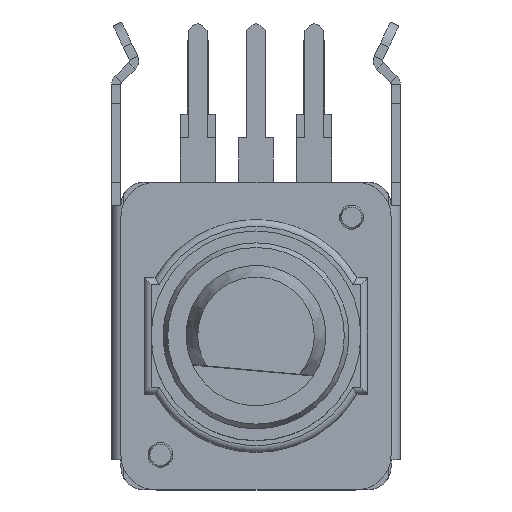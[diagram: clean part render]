
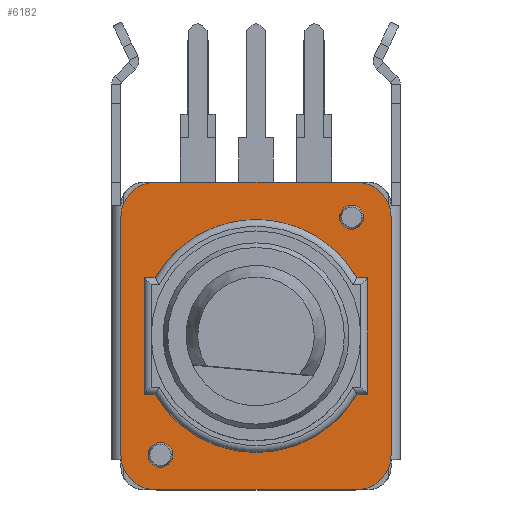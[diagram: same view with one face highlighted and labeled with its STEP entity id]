
A CAD part, top view. The second image highlights one B-rep face of the part: STEP entity #6182.
In plain terms, the highlighted planar face has unit normal (0, 0, 1).
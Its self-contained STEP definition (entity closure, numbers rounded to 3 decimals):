
#718=LINE($,#10011,#1444);
#722=LINE($,#10023,#1448);
#727=LINE($,#10041,#1453);
#728=LINE($,#10043,#1454);
#1444=VECTOR($,#8207,8.6);
#1448=VECTOR($,#8219,10.2);
#1453=VECTOR($,#8238,8.6);
#1454=VECTOR($,#8241,10.2);
#1727=PLANE($,#6667);
#2035=FACE_OUTER_BOUND($,#2353,.T.);
#2353=EDGE_LOOP($,(#5451,#5452,#5453,#5454,#5455,#5456,#5457,#5458));
#2500=CIRCLE($,#6652,1.5);
#2502=CIRCLE($,#6656,1.5);
#2504=CIRCLE($,#6660,1.5);
#2506=CIRCLE($,#6663,1.5);
#3051=VERTEX_POINT($,#9998);
#3052=VERTEX_POINT($,#9999);
#3056=VERTEX_POINT($,#10008);
#3057=VERTEX_POINT($,#10013);
#3060=VERTEX_POINT($,#10020);
#3061=VERTEX_POINT($,#10025);
#3063=VERTEX_POINT($,#10031);
#3064=VERTEX_POINT($,#10032);
#3905=EDGE_CURVE($,#3051,#3052,#2500,.T.);
#3911=EDGE_CURVE($,#3052,#3056,#718,.T.);
#3912=EDGE_CURVE($,#3056,#3057,#2502,.T.);
#3917=EDGE_CURVE($,#3057,#3060,#722,.T.);
#3918=EDGE_CURVE($,#3060,#3061,#2504,.T.);
#3921=EDGE_CURVE($,#3063,#3064,#2506,.T.);
#3926=EDGE_CURVE($,#3061,#3063,#727,.T.);
#3927=EDGE_CURVE($,#3064,#3051,#728,.T.);
#5451=ORIENTED_EDGE($,*,*,#3921,.F.);
#5452=ORIENTED_EDGE($,*,*,#3926,.F.);
#5453=ORIENTED_EDGE($,*,*,#3918,.F.);
#5454=ORIENTED_EDGE($,*,*,#3917,.F.);
#5455=ORIENTED_EDGE($,*,*,#3912,.F.);
#5456=ORIENTED_EDGE($,*,*,#3911,.F.);
#5457=ORIENTED_EDGE($,*,*,#3905,.F.);
#5458=ORIENTED_EDGE($,*,*,#3927,.F.);
#6182=ADVANCED_FACE($,(#2035),#1727,.T.);
#6652=AXIS2_PLACEMENT_3D($,#10000,#8197,#8198);
#6656=AXIS2_PLACEMENT_3D($,#10014,#8210,#8211);
#6660=AXIS2_PLACEMENT_3D($,#10026,#8222,#8223);
#6663=AXIS2_PLACEMENT_3D($,#10033,#8229,#8230);
#6667=AXIS2_PLACEMENT_3D($,#10045,#8243,#8244);
#8197=DIRECTION('center_axis',(0.,0.,
-1.));
#8198=DIRECTION('ref_axis',(-0.707,0.707,0.));
#8207=DIRECTION($,(1.,0.,0.));
#8210=DIRECTION('center_axis',(0.,0.,
-1.));
#8211=DIRECTION('ref_axis',(0.707,0.707,0.));
#8219=DIRECTION($,(0.,-1.,0.));
#8222=DIRECTION('center_axis',(0.,0.,
-1.));
#8223=DIRECTION('ref_axis',(0.707,-0.707,0.));
#8229=DIRECTION('center_axis',(0.,0.,
-1.));
#8230=DIRECTION('ref_axis',(-0.707,-0.707,0.));
#8238=DIRECTION($,(-1.,0.,0.));
#8241=DIRECTION($,(0.,1.,0.));
#8243=DIRECTION('center_axis',(0.,0.,
1.));
#8244=DIRECTION('ref_axis',(1.,0.,0.));
#9998=CARTESIAN_POINT('',(-5.8,5.1,6.6));
#9999=CARTESIAN_POINT('',(-4.3,6.6,6.6));
#10000=CARTESIAN_POINT('Origin',(-4.3,5.1,6.6));
#10008=CARTESIAN_POINT('',(4.3,6.6,6.6));
#10011=CARTESIAN_POINT($,(-5.8,6.6,6.6));
#10013=CARTESIAN_POINT('',(5.8,5.1,6.6));
#10014=CARTESIAN_POINT('Origin',(4.3,5.1,6.6));
#10020=CARTESIAN_POINT('',(5.8,-5.1,6.6));
#10023=CARTESIAN_POINT($,(5.8,6.6,6.6));
#10025=CARTESIAN_POINT('',(4.3,-6.6,6.6));
#10026=CARTESIAN_POINT('Origin',(4.3,-5.1,6.6));
#10031=CARTESIAN_POINT('',(-4.3,-6.6,6.6));
#10032=CARTESIAN_POINT('',(-5.8,-5.1,6.6));
#10033=CARTESIAN_POINT('Origin',(-4.3,-5.1,6.6));
#10041=CARTESIAN_POINT($,(5.8,-6.6,6.6));
#10043=CARTESIAN_POINT($,(-5.8,-6.6,6.6));
#10045=CARTESIAN_POINT('Origin',(0.,0.,
6.6));
